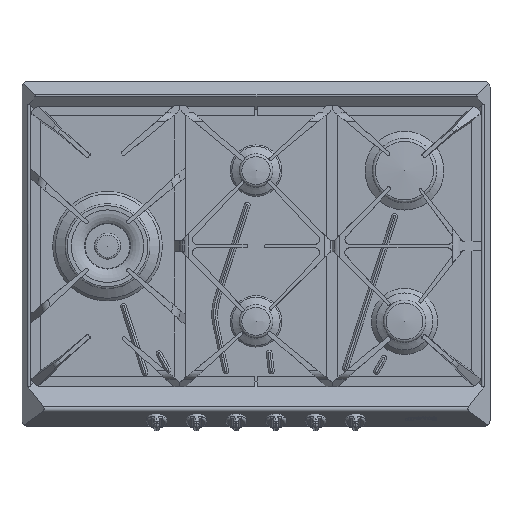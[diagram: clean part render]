
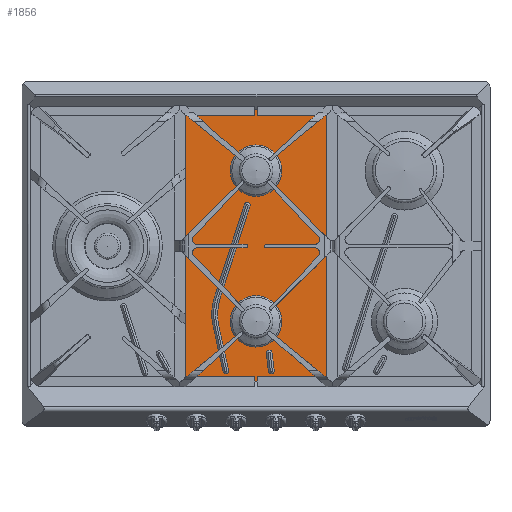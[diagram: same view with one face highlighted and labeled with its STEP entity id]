
A CAD part, top view. The second image highlights one B-rep face of the part: STEP entity #1856.
In plain terms, the highlighted planar face has unit normal (0, 0, 1).
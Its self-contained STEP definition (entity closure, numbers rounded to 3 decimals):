
#1856=ADVANCED_FACE('',(#3161,#3162,#3163,#3164,#3165),#2703,.T.);
#2703=PLANE('',#14688);
#3161=FACE_BOUND('',#3384,.T.);
#3162=FACE_BOUND('',#3385,.T.);
#3163=FACE_BOUND('',#3386,.T.);
#3164=FACE_BOUND('',#3387,.T.);
#3165=FACE_BOUND('',#3388,.T.);
#3384=EDGE_LOOP('',(#4349,#4350,#4351,#4352));
#3385=EDGE_LOOP('',(#4353));
#3386=EDGE_LOOP('',(#4354));
#3387=EDGE_LOOP('',(#4355,#4356,#4357,#4358,#4359,#4360,#4361,#4362));
#3388=EDGE_LOOP('',(#4363,#4364,#4365,#4366));
#4349=ORIENTED_EDGE('',*,*,#9712,.F.);
#4350=ORIENTED_EDGE('',*,*,#9713,.T.);
#4351=ORIENTED_EDGE('',*,*,#9714,.T.);
#4352=ORIENTED_EDGE('',*,*,#9715,.F.);
#4353=ORIENTED_EDGE('',*,*,#9716,.F.);
#4354=ORIENTED_EDGE('',*,*,#9717,.F.);
#4355=ORIENTED_EDGE('',*,*,#9718,.F.);
#4356=ORIENTED_EDGE('',*,*,#9719,.F.);
#4357=ORIENTED_EDGE('',*,*,#9720,.F.);
#4358=ORIENTED_EDGE('',*,*,#9721,.F.);
#4359=ORIENTED_EDGE('',*,*,#9722,.F.);
#4360=ORIENTED_EDGE('',*,*,#9723,.F.);
#4361=ORIENTED_EDGE('',*,*,#9724,.F.);
#4362=ORIENTED_EDGE('',*,*,#9725,.F.);
#4363=ORIENTED_EDGE('',*,*,#9726,.T.);
#4364=ORIENTED_EDGE('',*,*,#9727,.T.);
#4365=ORIENTED_EDGE('',*,*,#9728,.T.);
#4366=ORIENTED_EDGE('',*,*,#9729,.T.);
#8377=VERTEX_POINT('',#20173);
#8378=VERTEX_POINT('',#20174);
#8379=VERTEX_POINT('',#20176);
#8380=VERTEX_POINT('',#20178);
#8381=VERTEX_POINT('',#20181);
#8382=VERTEX_POINT('',#20183);
#8383=VERTEX_POINT('',#20185);
#8384=VERTEX_POINT('',#20186);
#8385=VERTEX_POINT('',#20188);
#8386=VERTEX_POINT('',#20190);
#8387=VERTEX_POINT('',#20192);
#8388=VERTEX_POINT('',#20194);
#8389=VERTEX_POINT('',#20196);
#8390=VERTEX_POINT('',#20198);
#8391=VERTEX_POINT('',#20201);
#8392=VERTEX_POINT('',#20202);
#8393=VERTEX_POINT('',#20204);
#8394=VERTEX_POINT('',#20206);
#9712=EDGE_CURVE('',#8377,#8378,#12327,.T.);
#9713=EDGE_CURVE('',#8377,#8379,#12328,.T.);
#9714=EDGE_CURVE('',#8379,#8380,#12329,.T.);
#9715=EDGE_CURVE('',#8378,#8380,#12330,.T.);
#9716=EDGE_CURVE('',#8381,#8381,#11736,.T.);
#9717=EDGE_CURVE('',#8382,#8382,#11737,.T.);
#9718=EDGE_CURVE('',#8383,#8384,#12331,.T.);
#9719=EDGE_CURVE('',#8385,#8383,#11738,.T.);
#9720=EDGE_CURVE('',#8386,#8385,#12332,.T.);
#9721=EDGE_CURVE('',#8387,#8386,#11739,.T.);
#9722=EDGE_CURVE('',#8388,#8387,#12333,.T.);
#9723=EDGE_CURVE('',#8389,#8388,#11740,.T.);
#9724=EDGE_CURVE('',#8390,#8389,#12334,.T.);
#9725=EDGE_CURVE('',#8384,#8390,#11741,.T.);
#9726=EDGE_CURVE('',#8391,#8392,#11742,.T.);
#9727=EDGE_CURVE('',#8392,#8393,#12335,.T.);
#9728=EDGE_CURVE('',#8393,#8394,#11743,.T.);
#9729=EDGE_CURVE('',#8394,#8391,#12336,.T.);
#11736=CIRCLE('',#14680,37.5);
#11737=CIRCLE('',#14681,37.5);
#11738=CIRCLE('',#14682,4.1);
#11739=CIRCLE('',#14683,80.);
#11740=CIRCLE('',#14684,4.2);
#11741=CIRCLE('',#14685,80.);
#11742=CIRCLE('',#14686,4.2);
#11743=CIRCLE('',#14687,4.2);
#12327=LINE('',#20172,#13499);
#12328=LINE('',#20175,#13500);
#12329=LINE('',#20177,#13501);
#12330=LINE('',#20179,#13502);
#12331=LINE('',#20184,#13503);
#12332=LINE('',#20189,#13504);
#12333=LINE('',#20193,#13505);
#12334=LINE('',#20197,#13506);
#12335=LINE('',#20203,#13507);
#12336=LINE('',#20207,#13508);
#13499=VECTOR('',#16136,1.);
#13500=VECTOR('',#16137,1.);
#13501=VECTOR('',#16138,1.);
#13502=VECTOR('',#16139,1.);
#13503=VECTOR('',#16144,1.);
#13504=VECTOR('',#16147,1.);
#13505=VECTOR('',#16150,1.);
#13506=VECTOR('',#16153,1.);
#13507=VECTOR('',#16158,1.);
#13508=VECTOR('',#16161,1.);
#14680=AXIS2_PLACEMENT_3D('',#20180,#16140,#16141);
#14681=AXIS2_PLACEMENT_3D('',#20182,#16142,#16143);
#14682=AXIS2_PLACEMENT_3D('',#20187,#16145,#16146);
#14683=AXIS2_PLACEMENT_3D('',#20191,#16148,#16149);
#14684=AXIS2_PLACEMENT_3D('',#20195,#16151,#16152);
#14685=AXIS2_PLACEMENT_3D('',#20199,#16154,#16155);
#14686=AXIS2_PLACEMENT_3D('',#20200,#16156,#16157);
#14687=AXIS2_PLACEMENT_3D('',#20205,#16159,#16160);
#14688=AXIS2_PLACEMENT_3D('',#20208,#16162,#16163);
#16136=DIRECTION('',(0.,-1.,0.));
#16137=DIRECTION('',(-1.,0.,0.));
#16138=DIRECTION('',(0.,-1.,0.));
#16139=DIRECTION('',(-1.,0.,0.));
#16140=DIRECTION('',(0.,0.,1.));
#16141=DIRECTION('',(1.,0.,0.));
#16142=DIRECTION('',(0.,0.,1.));
#16143=DIRECTION('',(1.,0.,0.));
#16144=DIRECTION('',(-0.215,0.977,0.));
#16145=DIRECTION('',(0.,0.,1.));
#16146=DIRECTION('',(1.,0.,0.));
#16147=DIRECTION('',(0.215,-0.977,0.));
#16148=DIRECTION('',(0.,0.,1.));
#16149=DIRECTION('',(1.,0.,0.));
#16150=DIRECTION('',(-0.309,-0.951,0.));
#16151=DIRECTION('',(0.,0.,1.));
#16152=DIRECTION('',(1.,0.,0.));
#16153=DIRECTION('',(0.309,0.951,0.));
#16154=DIRECTION('',(0.,0.,-1.));
#16155=DIRECTION('',(1.,0.,0.));
#16156=DIRECTION('',(0.,0.,-1.));
#16157=DIRECTION('',(1.,0.,0.));
#16158=DIRECTION('',(-0.122,0.993,0.));
#16159=DIRECTION('',(0.,0.,-1.));
#16160=DIRECTION('',(1.,0.,0.));
#16161=DIRECTION('',(0.122,-0.993,0.));
#16162=DIRECTION('',(0.,0.,1.));
#16163=DIRECTION('',(1.,0.,0.));
#20172=CARTESIAN_POINT('',(95.485,481.25,58.));
#20173=CARTESIAN_POINT('',(95.485,460.859,58.));
#20174=CARTESIAN_POINT('',(95.485,63.572,58.));
#20175=CARTESIAN_POINT('',(-349.,460.859,58.));
#20176=CARTESIAN_POINT('',(-110.485,460.859,58.));
#20177=CARTESIAN_POINT('',(-110.485,481.25,58.));
#20178=CARTESIAN_POINT('',(-110.485,63.572,58.));
#20179=CARTESIAN_POINT('',(-349.,63.572,58.));
#20180=CARTESIAN_POINT('',(-7.5,371.,58.));
#20181=CARTESIAN_POINT('',(30.,371.,58.));
#20182=CARTESIAN_POINT('',(-7.5,151.,58.));
#20183=CARTESIAN_POINT('',(30.,151.,58.));
#20184=CARTESIAN_POINT('',(-47.496,79.38,58.));
#20185=CARTESIAN_POINT('',(-47.496,79.38,58.));
#20186=CARTESIAN_POINT('',(-61.679,143.892,58.));
#20187=CARTESIAN_POINT('',(-51.5,78.5,58.));
#20188=CARTESIAN_POINT('',(-55.504,77.62,58.));
#20189=CARTESIAN_POINT('',(-70.251,144.693,58.));
#20190=CARTESIAN_POINT('',(-70.251,144.693,58.));
#20191=CARTESIAN_POINT('',(7.882,161.872,58.));
#20192=CARTESIAN_POINT('',(-68.202,186.593,58.));
#20193=CARTESIAN_POINT('',(-24.357,321.536,58.));
#20194=CARTESIAN_POINT('',(-24.357,321.536,58.));
#20195=CARTESIAN_POINT('',(-20.362,320.238,58.));
#20196=CARTESIAN_POINT('',(-16.368,318.94,58.));
#20197=CARTESIAN_POINT('',(-59.63,185.792,58.));
#20198=CARTESIAN_POINT('',(-59.63,185.792,58.));
#20199=CARTESIAN_POINT('',(16.454,161.071,58.));
#20200=CARTESIAN_POINT('',(14.9,78.5,58.));
#20201=CARTESIAN_POINT('',(19.069,79.012,58.));
#20202=CARTESIAN_POINT('',(10.731,77.988,58.));
#20203=CARTESIAN_POINT('',(10.731,77.988,58.));
#20204=CARTESIAN_POINT('',(7.49,104.39,58.));
#20205=CARTESIAN_POINT('',(11.658,104.902,58.));
#20206=CARTESIAN_POINT('',(15.827,105.414,58.));
#20207=CARTESIAN_POINT('',(15.827,105.414,58.));
#20208=CARTESIAN_POINT('',(-349.,-2.,58.));
